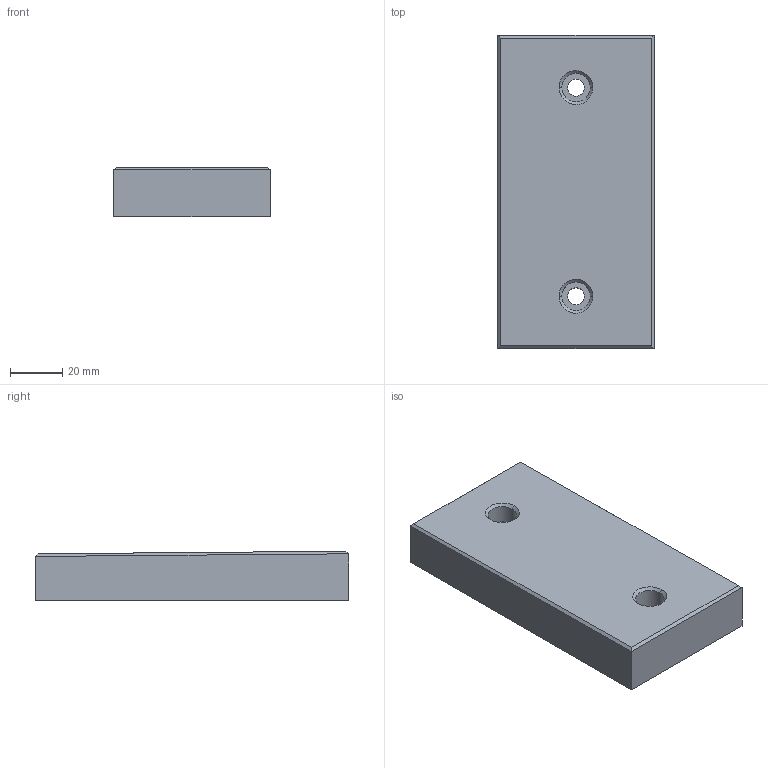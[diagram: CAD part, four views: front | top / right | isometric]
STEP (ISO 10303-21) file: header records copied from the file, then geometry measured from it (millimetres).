
FILE_DESCRIPTION(('CATIA V5 STEP Exchange'),'2;1');
FILE_NAME('C:\Users\Administrator\Desktop\汕德卡换档扶手\上盖板安装治具\上盖板支承块-03\SYDK-3.stp','2021-12-03T02:42:13+00:00',('none'),('none'),'CATIA Version 5 Release 20 GA (IN-10)','CATIA V5 STEP AP203','none');
FILE_SCHEMA(('CONFIG_CONTROL_DESIGN'));
Length unit declared in the file: millimetre
Products named in the file (1): SYDK-3
Bounding box: 60 x 120 x 18.99 mm (x, y, z)
Volume: 130705.4 mm3; surface area: 21673 mm2
Topology: 1 solids, 1 shells, 24 faces, 56 edges, 36 vertices
Faces by surface type: plane 12, cylinder 8, bspline 4
Entity records: 975 total; most frequent: CARTESIAN_POINT 438, ORIENTED_EDGE 112, DIRECTION 70, EDGE_CURVE 56, VERTEX_POINT 36, EDGE_LOOP 30, AXIS2_PLACEMENT_3D 28, VECTOR 28
